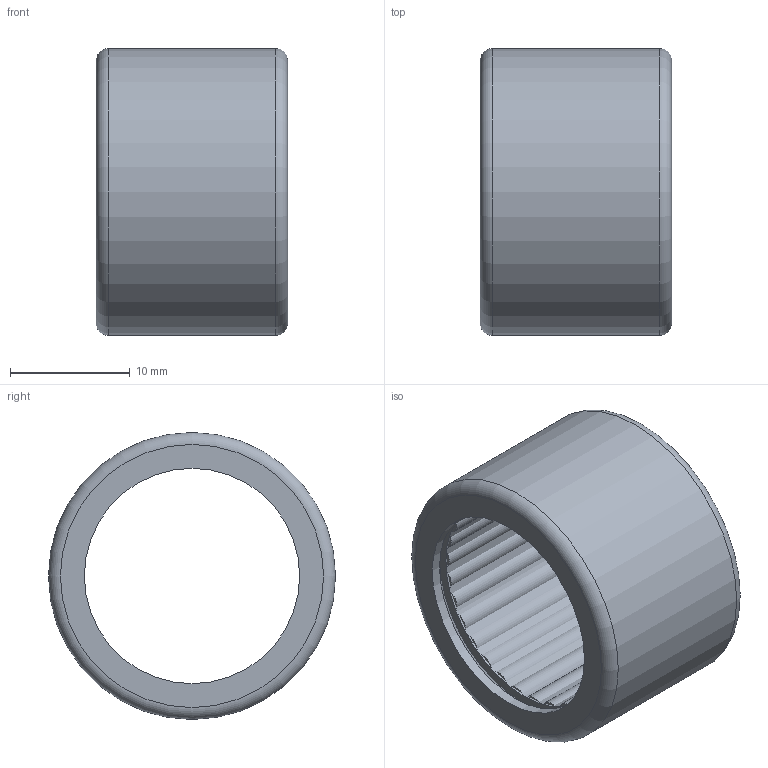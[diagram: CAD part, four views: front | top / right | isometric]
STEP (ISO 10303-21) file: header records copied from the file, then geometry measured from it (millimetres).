
FILE_DESCRIPTION(/* description */ (''),/* implementation_level */ '2;1');
FILE_NAME(/* name */ 'C:\Users\OUREHANEKD\Desktop\Ihlove loziska\HK-2RS\HK-2RS--\HK1816-2RS.stp',/* time_stamp */ '2016-10-07T11:07:54+02:00',/* author */ ('OUREHANEKD'),/* organization */ (''),/* preprocessor_version */ 'ST-DEVELOPER v15.6',/* originating_system */ 'Autodesk Inventor 2015',/* authorisation */ '');
FILE_SCHEMA (('AUTOMOTIVE_DESIGN { 1 0 10303 214 3 1 1 }'));
Length unit declared in the file: millimetre
Products named in the file (4): HK1816-2RS-01; HK1816-2RS-kl; HK1816-2RS-ihla; HK1816-2RS
Assembly tree (32 placements, depth 2):
  HK1816-2RS
    HK1816-2RS-01
    HK1816-2RS-kl
    HK1816-2RS-ihla  x30
Bounding box: 16 x 24 x 24 mm (x, y, z)
Volume: 3924.3 mm3; surface area: 7224 mm2
Topology: 32 solids, 32 shells, 106 faces, 116 edges, 76 vertices
Faces by surface type: plane 66, cylinder 36, torus 2, cone 2
Full cylindrical faces by diameter (mm): 2.136 x30, 18 x2, 18.5 x1, 21.772 x1, 22.272 x1, 24 x1
Entity records: 700 total; most frequent: DIRECTION 146, CARTESIAN_POINT 91, AXIS2_PLACEMENT_3D 73, EDGE_LOOP 36, ORIENTED_EDGE 36, PRODUCT_DEFINITION_SHAPE 36, ITEM_DEFINED_TRANSFORMATION 32, CONTEXT_DEPENDENT_SHAPE_REPRESENTATION 32
